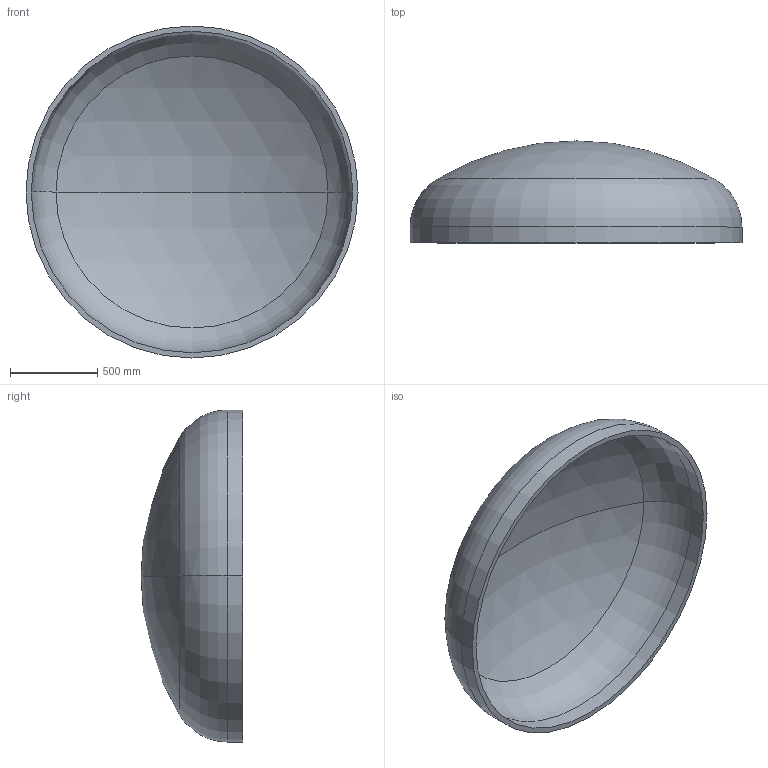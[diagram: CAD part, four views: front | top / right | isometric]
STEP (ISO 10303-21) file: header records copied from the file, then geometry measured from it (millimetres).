
FILE_DESCRIPTION (( 'STEP AP203' ), '1' );
FILE_NAME ('DIN 28013 Korbbogenform_-_Boden DIN 28013 - 1900 x 90 - I - s=30.step', '2016-07-01T13:04:03', ( '' ), ( '' ), 'SwSTEP 2.0', 'SolidWorks 2013', '' );
FILE_SCHEMA (( 'CONFIG_CONTROL_DESIGN' ));
Length unit declared in the file: millimetre
Products named in the file (1): DIN 28013 Korbbogenform_-_Boden DIN 28013 - 1900 x 90 - I - s=30
Bounding box: 1900 x 583.59 x 1900 mm (x, y, z)
Volume: 131034410.1 mm3; surface area: 8913752.7 mm2
Topology: 1 solids, 1 shells, 13 faces, 24 edges, 14 vertices
Faces by surface type: torus 4, cylinder 4, sphere 4, plane 1
Entity records: 407 total; most frequent: DIRECTION 72, CARTESIAN_POINT 52, ORIENTED_EDGE 48, AXIS2_PLACEMENT_3D 34, EDGE_CURVE 24, CIRCLE 20, EDGE_LOOP 14, VERTEX_POINT 14
